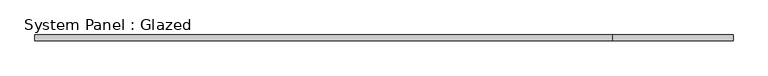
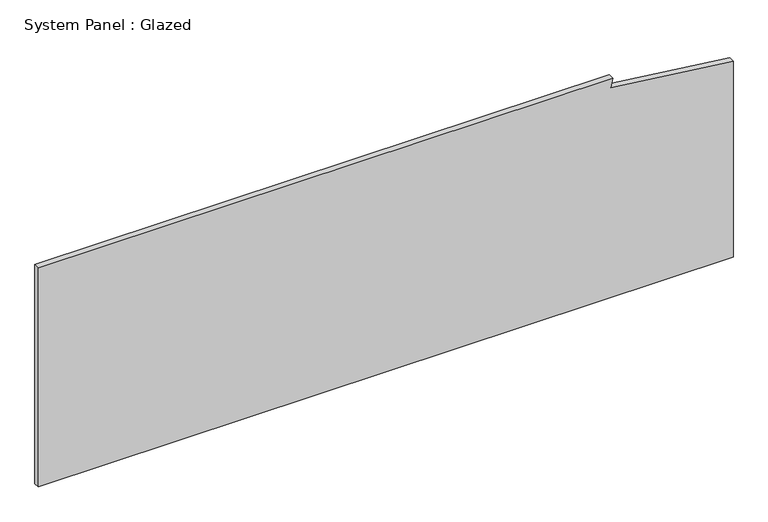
"""IFC4 building model written with IfcOpenShell, lengths in millimetres: plate geometry, System Panel : Glazed."""

from ifc_helpers import new_model, si_unit, frame, origin, place, context, project, spatial, polyline, outline, extrude, source, transform, mapped, element, save


def system_panel_glazed_e5f27b07(model_context):
    return source(origin(), model_context, "Body", "SweptSolid", [
        extrude(outline(polyline([(0.0, -1504.95), (0.0, 1504.95), (899.2028355, 1504.95), (963.0482901, 975.2722522), (1003.3, 983.9510798), (1003.3, -1504.95), (0.0, -1504.95)])), frame((0.0, 19.05, 0.0), z_axis=(0.0, 1.0, 0.0), x_axis=(0.0, 0.0, 1.0)), (0.0, 0.0, 1.0), 25.4),
    ])


if __name__ == "__main__":
    model = new_model("IFC4")
    model_context = context("Model", 3, world=origin())
    ifc_project = project(units=[si_unit("LENGTHUNIT", "METRE", prefix="MILLI")], contexts=[model_context])
    site = spatial("IfcSite", under=ifc_project)
    building = spatial("IfcBuilding", under=site)
    placement = place(None, origin())
    system_panel_glazed_shape = system_panel_glazed_e5f27b07(model_context)
    element("IfcPlate", 1, ObjectType="System Panel : Glazed", at=placement, inside=building, context=model_context, shape_type="MappedRepresentation", body=[
        mapped(system_panel_glazed_shape, transform((0.0, 0.0, 0.0), x_axis=(1.0, 0.0, 0.0), y_axis=(0.0, 1.0, 0.0), z_axis=(0.0, 0.0, 1.0))),
    ])
    save(model, "model.ifc")
